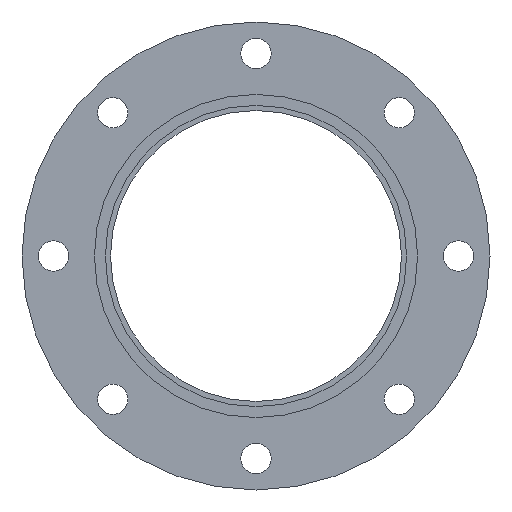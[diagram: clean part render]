
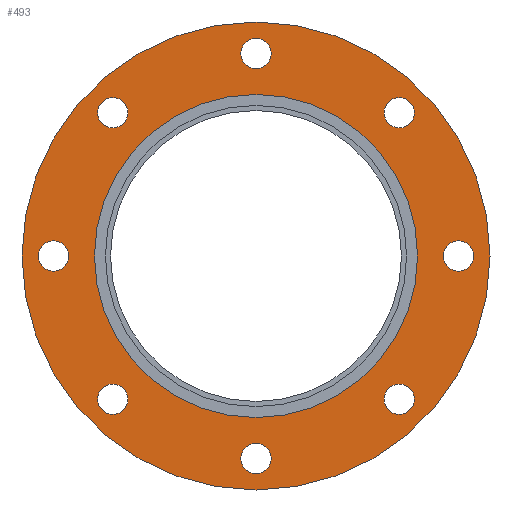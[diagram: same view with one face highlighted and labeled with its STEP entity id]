
A CAD part, left-side view. The second image highlights one B-rep face of the part: STEP entity #493.
In plain terms, the highlighted planar face has unit normal (-1, 0, 0).
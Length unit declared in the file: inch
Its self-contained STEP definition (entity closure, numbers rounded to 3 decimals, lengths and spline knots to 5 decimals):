
#49=FACE_BOUND('',#119,.T.);
#50=FACE_BOUND('',#120,.T.);
#51=FACE_BOUND('',#121,.T.);
#52=FACE_BOUND('',#122,.T.);
#53=FACE_BOUND('',#123,.T.);
#54=FACE_BOUND('',#124,.T.);
#55=FACE_BOUND('',#125,.T.);
#56=FACE_BOUND('',#126,.T.);
#57=FACE_BOUND('',#127,.T.);
#72=PLANE('',#571);
#92=FACE_OUTER_BOUND('',#118,.T.);
#118=EDGE_LOOP('',(#397,#398));
#119=EDGE_LOOP('',(#399));
#120=EDGE_LOOP('',(#400));
#121=EDGE_LOOP('',(#401));
#122=EDGE_LOOP('',(#402));
#123=EDGE_LOOP('',(#403));
#124=EDGE_LOOP('',(#404));
#125=EDGE_LOOP('',(#405));
#126=EDGE_LOOP('',(#406));
#127=EDGE_LOOP('',(#407,#408));
#173=CIRCLE('',#520,0.435);
#175=CIRCLE('',#523,0.435);
#177=CIRCLE('',#526,0.435);
#179=CIRCLE('',#529,0.435);
#181=CIRCLE('',#532,0.435);
#183=CIRCLE('',#535,0.435);
#185=CIRCLE('',#538,0.435);
#187=CIRCLE('',#541,0.435);
#206=CIRCLE('',#569,4.625);
#207=CIRCLE('',#570,4.625);
#208=CIRCLE('',#572,6.7);
#209=CIRCLE('',#573,6.7);
#217=VERTEX_POINT('',#776);
#219=VERTEX_POINT('',#782);
#221=VERTEX_POINT('',#788);
#223=VERTEX_POINT('',#794);
#225=VERTEX_POINT('',#800);
#227=VERTEX_POINT('',#806);
#229=VERTEX_POINT('',#812);
#231=VERTEX_POINT('',#818);
#250=VERTEX_POINT('',#870);
#251=VERTEX_POINT('',#871);
#252=VERTEX_POINT('',#876);
#253=VERTEX_POINT('',#877);
#262=EDGE_CURVE('',#217,#217,#173,.T.);
#265=EDGE_CURVE('',#219,#219,#175,.T.);
#268=EDGE_CURVE('',#221,#221,#177,.T.);
#271=EDGE_CURVE('',#223,#223,#179,.T.);
#274=EDGE_CURVE('',#225,#225,#181,.T.);
#277=EDGE_CURVE('',#227,#227,#183,.T.);
#280=EDGE_CURVE('',#229,#229,#185,.T.);
#283=EDGE_CURVE('',#231,#231,#187,.T.);
#306=EDGE_CURVE('',#250,#251,#206,.T.);
#307=EDGE_CURVE('',#251,#250,#207,.T.);
#309=EDGE_CURVE('',#252,#253,#208,.T.);
#310=EDGE_CURVE('',#253,#252,#209,.T.);
#397=ORIENTED_EDGE('',*,*,#309,.F.);
#398=ORIENTED_EDGE('',*,*,#310,.F.);
#399=ORIENTED_EDGE('',*,*,#262,.T.);
#400=ORIENTED_EDGE('',*,*,#265,.T.);
#401=ORIENTED_EDGE('',*,*,#268,.T.);
#402=ORIENTED_EDGE('',*,*,#271,.T.);
#403=ORIENTED_EDGE('',*,*,#274,.T.);
#404=ORIENTED_EDGE('',*,*,#277,.T.);
#405=ORIENTED_EDGE('',*,*,#280,.T.);
#406=ORIENTED_EDGE('',*,*,#283,.T.);
#407=ORIENTED_EDGE('',*,*,#306,.T.);
#408=ORIENTED_EDGE('',*,*,#307,.T.);
#493=ADVANCED_FACE('',(#92,#49,#50,#51,#52,#53,#54,#55,#56,#57),#72,.T.);
#520=AXIS2_PLACEMENT_3D('',#778,#604,#605);
#523=AXIS2_PLACEMENT_3D('',#784,#611,#612);
#526=AXIS2_PLACEMENT_3D('',#790,#618,#619);
#529=AXIS2_PLACEMENT_3D('',#796,#625,#626);
#532=AXIS2_PLACEMENT_3D('',#802,#632,#633);
#535=AXIS2_PLACEMENT_3D('',#808,#639,#640);
#538=AXIS2_PLACEMENT_3D('',#814,#646,#647);
#541=AXIS2_PLACEMENT_3D('',#820,#653,#654);
#569=AXIS2_PLACEMENT_3D('',#872,#713,#714);
#570=AXIS2_PLACEMENT_3D('',#873,#715,#716);
#571=AXIS2_PLACEMENT_3D('',#875,#718,#719);
#572=AXIS2_PLACEMENT_3D('',#878,#720,#721);
#573=AXIS2_PLACEMENT_3D('',#879,#722,#723);
#604=DIRECTION('center_axis',(1.,0.,0.));
#605=DIRECTION('ref_axis',(0.,0.707,0.707));
#611=DIRECTION('center_axis',(1.,0.,0.));
#612=DIRECTION('ref_axis',(0.,1.,0.));
#618=DIRECTION('center_axis',(1.,0.,0.));
#619=DIRECTION('ref_axis',(0.,0.707,-0.707));
#625=DIRECTION('center_axis',(1.,0.,0.));
#626=DIRECTION('ref_axis',(0.,0.,-1.));
#632=DIRECTION('center_axis',(1.,0.,0.));
#633=DIRECTION('ref_axis',(0.,-0.707,-0.707));
#639=DIRECTION('center_axis',(1.,0.,0.));
#640=DIRECTION('ref_axis',(0.,-1.,0.));
#646=DIRECTION('center_axis',(1.,0.,0.));
#647=DIRECTION('ref_axis',(0.,-0.707,0.707));
#653=DIRECTION('center_axis',(1.,0.,0.));
#654=DIRECTION('ref_axis',(0.,0.,1.));
#713=DIRECTION('center_axis',(1.,0.,0.));
#714=DIRECTION('ref_axis',(0.,0.,-1.));
#715=DIRECTION('center_axis',(1.,0.,0.));
#716=DIRECTION('ref_axis',(0.,0.,-1.));
#718=DIRECTION('center_axis',(-1.,0.,0.));
#719=DIRECTION('ref_axis',(0.,0.,1.));
#720=DIRECTION('center_axis',(1.,0.,0.));
#721=DIRECTION('ref_axis',(0.,0.,-1.));
#722=DIRECTION('center_axis',(1.,0.,0.));
#723=DIRECTION('ref_axis',(0.,0.,-1.));
#776=CARTESIAN_POINT('',(-0.94,3.79363,-4.40881));
#778=CARTESIAN_POINT('Origin',(-0.94,4.10122,-4.10122));
#782=CARTESIAN_POINT('',(-0.94,-0.435,-5.8));
#784=CARTESIAN_POINT('Origin',(-0.94,0.,
-5.8));
#788=CARTESIAN_POINT('',(-0.94,-4.40881,-3.79363));
#790=CARTESIAN_POINT('Origin',(-0.94,-4.10122,-4.10122));
#794=CARTESIAN_POINT('',(-0.94,-5.8,0.435));
#796=CARTESIAN_POINT('Origin',(-0.94,-5.8,0.));
#800=CARTESIAN_POINT('',(-0.94,-3.79363,4.40881));
#802=CARTESIAN_POINT('Origin',(-0.94,-4.10122,4.10122));
#806=CARTESIAN_POINT('',(-0.94,0.435,5.8));
#808=CARTESIAN_POINT('Origin',(-0.94,0.,
5.8));
#812=CARTESIAN_POINT('',(-0.94,4.40881,3.79363));
#814=CARTESIAN_POINT('Origin',(-0.94,4.10122,4.10122));
#818=CARTESIAN_POINT('',(-0.94,5.8,-0.435));
#820=CARTESIAN_POINT('Origin',(-0.94,5.8,0.));
#870=CARTESIAN_POINT('',(-0.94,4.625,0.));
#871=CARTESIAN_POINT('',(-0.94,-4.625,0.));
#872=CARTESIAN_POINT('Origin',(-0.94,0.,
0.));
#873=CARTESIAN_POINT('Origin',(-0.94,0.,
0.));
#875=CARTESIAN_POINT('Origin',(-0.94,6.7,0.));
#876=CARTESIAN_POINT('',(-0.94,6.7,0.));
#877=CARTESIAN_POINT('',(-0.94,-6.7,0.));
#878=CARTESIAN_POINT('Origin',(-0.94,0.,
0.));
#879=CARTESIAN_POINT('Origin',(-0.94,0.,
0.));
